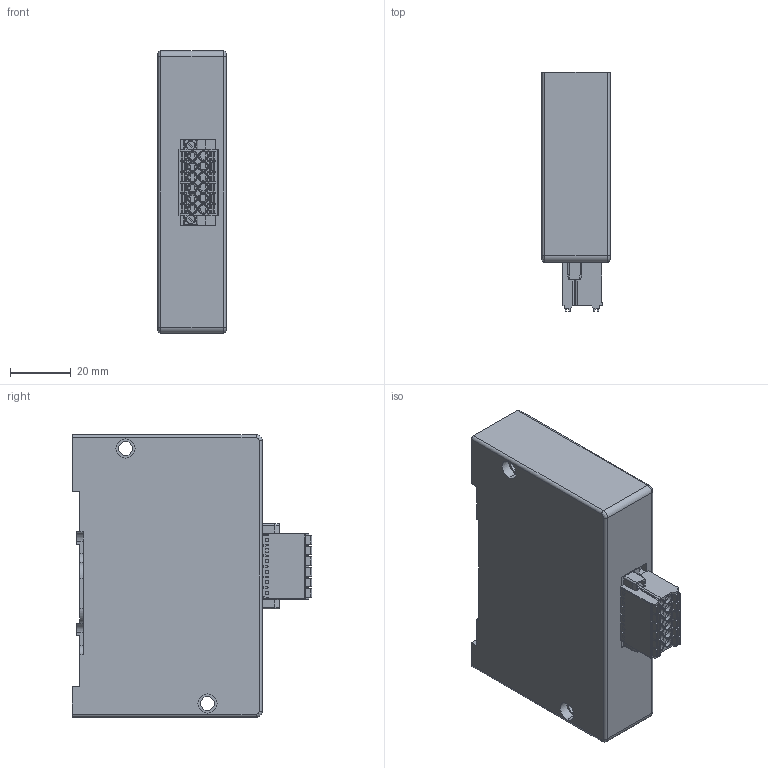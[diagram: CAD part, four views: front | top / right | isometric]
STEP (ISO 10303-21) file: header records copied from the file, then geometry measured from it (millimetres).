
FILE_DESCRIPTION( (''), '2;1');
FILE_NAME ('YS8-A2S.stp','2022-12-01T16:48:59',(''),(''),'spGate 12.6.6','','');
FILE_SCHEMA (('AUTOMOTIVE_DESIGN'));
Length unit declared in the file: millimetre
Bounding box: 22.5 x 78.8 x 93 mm (x, y, z)
Volume: 128059.5 mm3; surface area: 22774.9 mm2
Topology: 1 solids, 1 shells, 851 faces, 2223 edges, 1432 vertices
Faces by surface type: plane 539, cylinder 256, bspline 56
Entity records: 44963 total; most frequent: CARTESIAN_POINT 6183, ORIENTED_EDGE 4446, DIRECTION 4248, COLOUR_RGB 3075, PRESENTATION_STYLE_ASSIGNMENT 3075, STYLED_ITEM 3075, EDGE_CURVE 2223, DRAUGHTING_PRE_DEFINED_CURVE_FONT 2223
